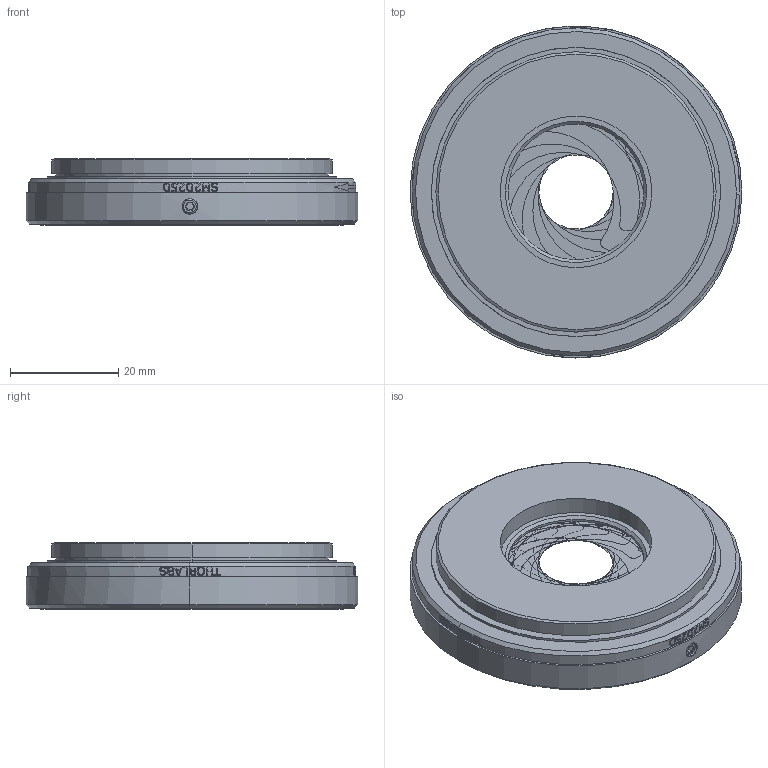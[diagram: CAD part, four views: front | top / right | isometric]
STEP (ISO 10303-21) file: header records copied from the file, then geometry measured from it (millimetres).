
FILE_DESCRIPTION (( 'STEP AP214' ), '1' );
FILE_NAME ('13260-E0W.STEP', '2023-02-20T19:02:37', ( '' ), ( '' ), 'SwSTEP 2.0', 'SolidWorks 2022', '' );
FILE_SCHEMA (( 'AUTOMOTIVE_DESIGN' ));
Length unit declared in the file: millimetre
Products named in the file (1): 13260-E0W
Bounding box: 61.21 x 61.21 x 12.32 mm (x, y, z)
Volume: 17348.9 mm3; surface area: 21650.5 mm2
Topology: 21 solids, 21 shells, 794 faces, 2017 edges, 1332 vertices
Faces by surface type: plane 311, cylinder 279, bspline 163, cone 25, torus 14, sphere 2
Entity records: 48156 total; most frequent: CARTESIAN_POINT 20869, ORIENTED_EDGE 4034, DIRECTION 3403, EDGE_CURVE 2017, AXIS2_PLACEMENT_3D 1351, VERTEX_POINT 1332, EDGE_LOOP 909, UNCERTAINTY_MEASURE_WITH_UNIT 817
